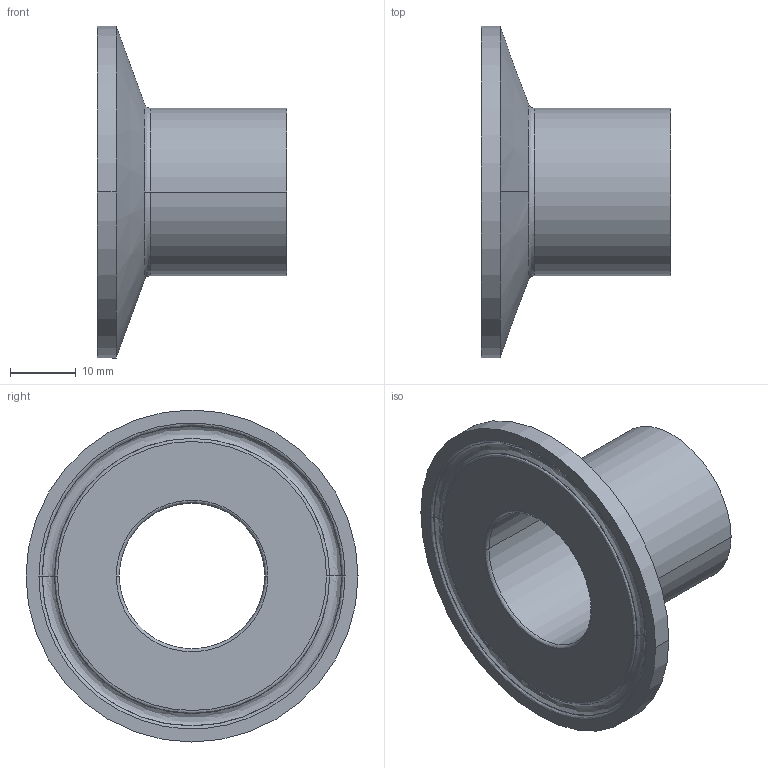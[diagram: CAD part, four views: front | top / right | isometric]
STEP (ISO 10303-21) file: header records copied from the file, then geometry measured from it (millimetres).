
FILE_DESCRIPTION (( 'STEP AP214' ), '1' );
FILE_NAME ('TEG14BM76L1.0_TYPE B.STEP', '2016-05-23T04:06:30', ( 'eran' ), ( '' ), 'SwSTEP 2.0', 'SolidWorks 2016', '' );
FILE_SCHEMA (( 'AUTOMOTIVE_DESIGN' ));
Length unit declared in the file: millimetre
Products named in the file (1): TEG14BM76L1.0_TYPE B
Bounding box: 28.7 x 50.39 x 50.39 mm (x, y, z)
Volume: 10604.7 mm3; surface area: 7513.1 mm2
Topology: 1 solids, 1 shells, 25 faces, 62 edges, 40 vertices
Faces by surface type: bspline 10, cylinder 6, cone 6, plane 3
Entity records: 1419 total; most frequent: CARTESIAN_POINT 794, DIRECTION 132, ORIENTED_EDGE 124, EDGE_CURVE 62, AXIS2_PLACEMENT_3D 60, CIRCLE 44, VERTEX_POINT 40, EDGE_LOOP 28
